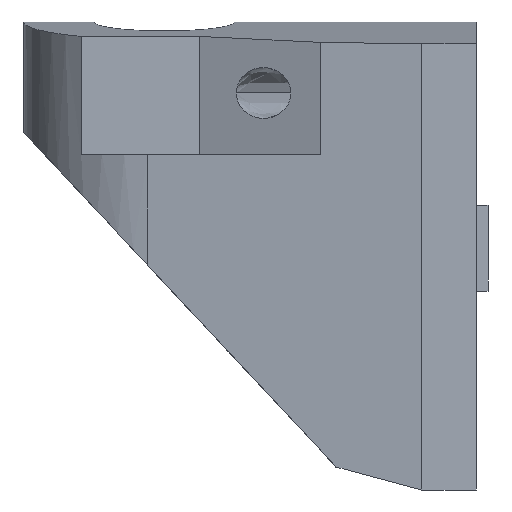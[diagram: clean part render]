
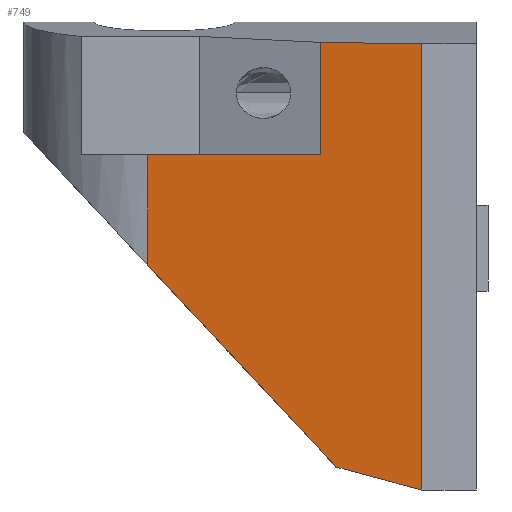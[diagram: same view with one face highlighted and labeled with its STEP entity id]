
A CAD part, front view. The second image highlights one B-rep face of the part: STEP entity #749.
In plain terms, the highlighted planar face has unit normal (-0.117, -0.993, 0).
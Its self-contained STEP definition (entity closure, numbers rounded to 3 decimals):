
#32 = EDGE_CURVE ( 'NONE', #170, #194, #424, .T. ) ;
#37 = VERTEX_POINT ( 'NONE', #628 ) ;
#41 = EDGE_CURVE ( 'NONE', #194, #180, #1005, .T. ) ;
#43 = CARTESIAN_POINT ( 'NONE',  ( 137.591, 265.532, 25.347 ) ) ;
#48 = CARTESIAN_POINT ( 'NONE',  ( 137.591, 265.532, 22.543 ) ) ;
#83 = DIRECTION ( 'NONE',  ( 0., 0., -1. ) ) ;
#96 = EDGE_CURVE ( 'NONE', #37, #170, #349, .T. ) ;
#103 = ORIENTED_EDGE ( 'NONE', *, *, #795, .F. ) ;
#104 = CARTESIAN_POINT ( 'NONE',  ( 102.491, 269.655, 8.347 ) ) ;
#145 = DIRECTION ( 'NONE',  ( -0.993, 0.117, 0.015 ) ) ;
#157 = ORIENTED_EDGE ( 'NONE', *, *, #32, .T. ) ;
#170 = VERTEX_POINT ( 'NONE', #741 ) ;
#180 = VERTEX_POINT ( 'NONE', #837 ) ;
#182 = VERTEX_POINT ( 'NONE', #341 ) ;
#185 = VECTOR ( 'NONE', #1207, 1000. ) ;
#190 = CARTESIAN_POINT ( 'NONE',  ( 124.591, 267.059, 8.347 ) ) ;
#194 = VERTEX_POINT ( 'NONE', #620 ) ;
#235 = EDGE_CURVE ( 'NONE', #715, #1083, #755, .T. ) ;
#242 = DIRECTION ( 'NONE',  ( 0., 0., 1. ) ) ;
#248 = EDGE_LOOP ( 'NONE', ( #292, #273, #103, #279, #706, #157, #724 ) ) ;
#273 = ORIENTED_EDGE ( 'NONE', *, *, #235, .F. ) ;
#279 = ORIENTED_EDGE ( 'NONE', *, *, #700, .T. ) ;
#292 = ORIENTED_EDGE ( 'NONE', *, *, #1125, .T. ) ;
#332 = VECTOR ( 'NONE', #145, 1000. ) ;
#337 = CARTESIAN_POINT ( 'NONE',  ( 126.591, 266.824, -31.705 ) ) ;
#341 = CARTESIAN_POINT ( 'NONE',  ( 102.491, 269.655, -5.861 ) ) ;
#349 = LINE ( 'NONE', #337, #185 ) ;
#417 = PLANE ( 'NONE',  #1242 ) ;
#424 = LINE ( 'NONE', #43, #1071 ) ;
#484 = FACE_OUTER_BOUND ( 'NONE', #248, .T. ) ;
#559 = VECTOR ( 'NONE', #717, 1000. ) ;
#607 = CARTESIAN_POINT ( 'NONE',  ( 102.491, 269.655, 25.347 ) ) ;
#620 = CARTESIAN_POINT ( 'NONE',  ( 137.591, 265.532, 22.543 ) ) ;
#628 = CARTESIAN_POINT ( 'NONE',  ( 126.591, 266.824, -31.705 ) ) ;
#694 = CARTESIAN_POINT ( 'NONE',  ( 102.491, 269.655, -5.861 ) ) ;
#700 = EDGE_CURVE ( 'NONE', #182, #37, #1133, .T. ) ;
#706 = ORIENTED_EDGE ( 'NONE', *, *, #96, .T. ) ;
#715 = VERTEX_POINT ( 'NONE', #104 ) ;
#717 = DIRECTION ( 'NONE',  ( 0., 0., 1. ) ) ;
#724 = ORIENTED_EDGE ( 'NONE', *, *, #41, .T. ) ;
#741 = CARTESIAN_POINT ( 'NONE',  ( 137.591, 265.532, -34.653 ) ) ;
#749 = ADVANCED_FACE ( 'NONE', ( #484 ), #417, .T. ) ;
#755 = LINE ( 'NONE', #1130, #1021 ) ;
#795 = EDGE_CURVE ( 'NONE', #182, #715, #905, .T. ) ;
#812 = VECTOR ( 'NONE', #83, 1000. ) ;
#837 = CARTESIAN_POINT ( 'NONE',  ( 124.591, 267.059, 22.738 ) ) ;
#905 = LINE ( 'NONE', #607, #559 ) ;
#910 = CARTESIAN_POINT ( 'NONE',  ( 137.591, 265.532, 25.347 ) ) ;
#958 = CARTESIAN_POINT ( 'NONE',  ( 124.591, 267.059, 8.347 ) ) ;
#1005 = LINE ( 'NONE', #48, #332 ) ;
#1013 = DIRECTION ( 'NONE',  ( 0.993, -0.117, 0. ) ) ;
#1021 = VECTOR ( 'NONE', #1233, 1000. ) ;
#1063 = LINE ( 'NONE', #190, #812 ) ;
#1071 = VECTOR ( 'NONE', #242, 1000. ) ;
#1083 = VERTEX_POINT ( 'NONE', #958 ) ;
#1085 = DIRECTION ( 'NONE',  ( -0.117, -0.993, 0. ) ) ;
#1125 = EDGE_CURVE ( 'NONE', #180, #1083, #1063, .T. ) ;
#1130 = CARTESIAN_POINT ( 'NONE',  ( 102.491, 269.655, 8.347 ) ) ;
#1133 = LINE ( 'NONE', #694, #1192 ) ;
#1174 = DIRECTION ( 'NONE',  ( 0.68, -0.08, -0.729 ) ) ;
#1192 = VECTOR ( 'NONE', #1174, 1000. ) ;
#1207 = DIRECTION ( 'NONE',  ( 0.96, -0.113, -0.257 ) ) ;
#1233 = DIRECTION ( 'NONE',  ( 0.993, -0.117, 0. ) ) ;
#1242 = AXIS2_PLACEMENT_3D ( 'NONE', #910, #1085, #1013 ) ;
